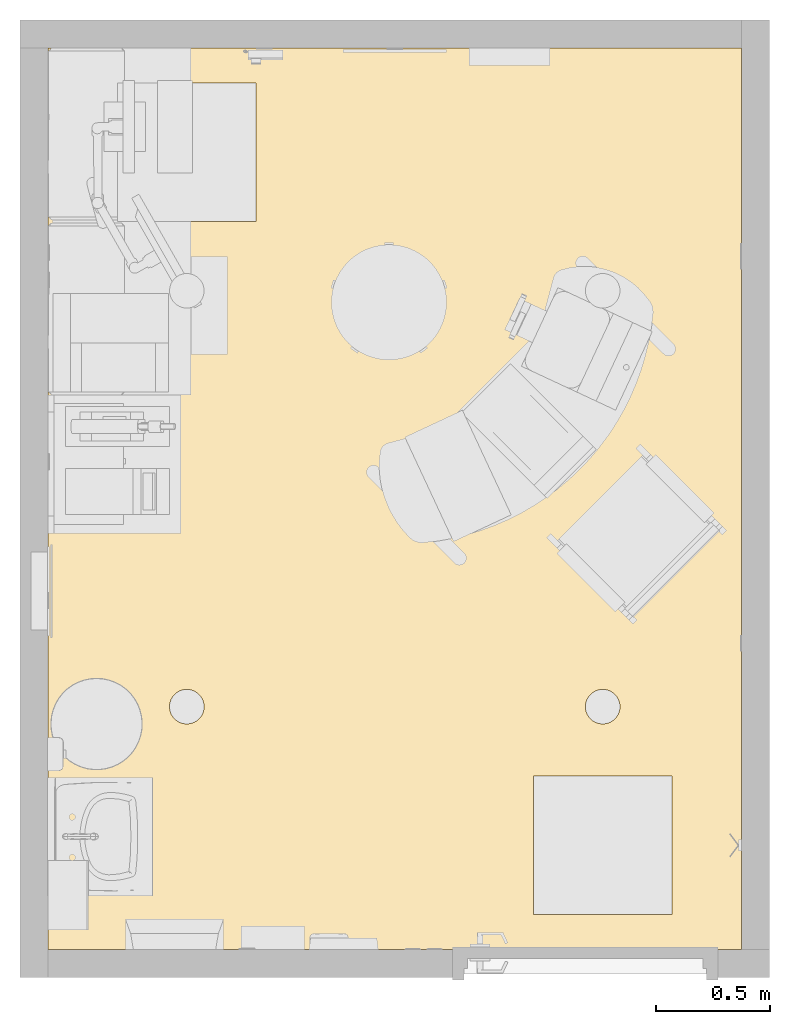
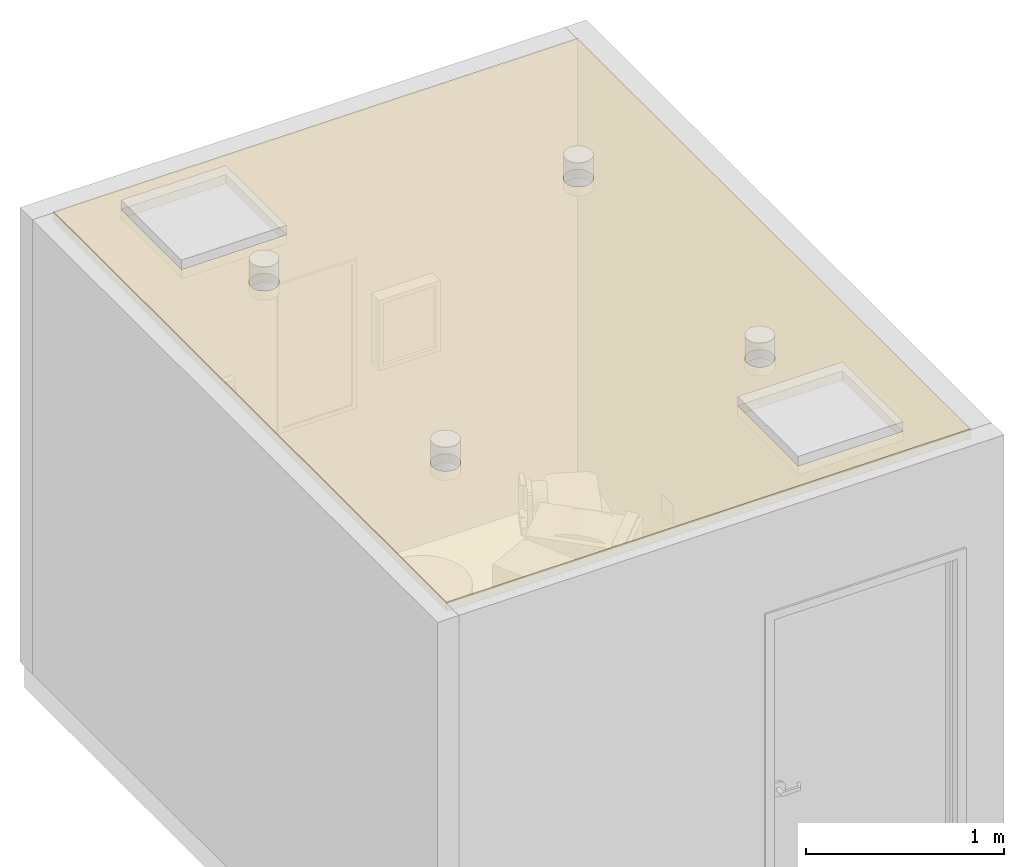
# One storey, part 3 of 12: 1 covering.
"""IFC2X3 building model written with IfcOpenShell, lengths in feet."""

from ifc_helpers import new_model, entity, si_unit, converted_unit, derived_unit, direction, frame, frame_2d, origin, place, context, subcontext, project, spatial, polyline, circle_curve, parameter, trimmed, segment, composite_curve, outline, extrude, material, layer, layer_set, layer_usage, element, save


model = new_model("IFC2X3")

# Units and contexts
model_context = context("Model", 3, precision=0.0001, world=origin(), true_north=direction((6.12303176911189e-17, 1.0)))
body_context = subcontext(model_context, "Body", "Model", "MODEL_VIEW")
ifc_project = project(units=[converted_unit("LENGTHUNIT", "FOOT", entity("IfcRatioMeasure", 0.3048), si_unit("LENGTHUNIT", "METRE"), dimensions=[1, 0, 0, 0, 0, 0, 0]), converted_unit("AREAUNIT", "SQUARE FOOT", entity("IfcRatioMeasure", 0.09290304), si_unit("AREAUNIT", "SQUARE_METRE"), dimensions=[2, 0, 0, 0, 0, 0, 0]), converted_unit("VOLUMEUNIT", "CUBIC FOOT", entity("IfcRatioMeasure", 0.028316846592), si_unit("VOLUMEUNIT", "CUBIC_METRE"), dimensions=[3, 0, 0, 0, 0, 0, 0]), converted_unit("PLANEANGLEUNIT", "DEGREE", entity("IfcRatioMeasure", 0.0174532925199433), si_unit("PLANEANGLEUNIT", "RADIAN"), dimensions=[0, 0, 0, 0, 0, 0, 0]), si_unit("MASSUNIT", "GRAM", prefix="KILO"), derived_unit("MASSDENSITYUNIT", [(si_unit("MASSUNIT", "GRAM", prefix="KILO"), 1), (si_unit("LENGTHUNIT", "METRE"), -3)]), si_unit("TIMEUNIT", "SECOND"), si_unit("FREQUENCYUNIT", "HERTZ"), si_unit("THERMODYNAMICTEMPERATUREUNIT", "DEGREE_CELSIUS"), derived_unit("THERMALTRANSMITTANCEUNIT", [(si_unit("MASSUNIT", "GRAM", prefix="KILO"), 1), (si_unit("THERMODYNAMICTEMPERATUREUNIT", "KELVIN"), -1), (si_unit("TIMEUNIT", "SECOND"), -3)]), derived_unit("VOLUMETRICFLOWRATEUNIT", [(si_unit("LENGTHUNIT", "METRE"), 3), (si_unit("TIMEUNIT", "SECOND"), -1)]), si_unit("ELECTRICCURRENTUNIT", "AMPERE"), si_unit("ELECTRICVOLTAGEUNIT", "VOLT"), si_unit("POWERUNIT", "WATT"), si_unit("FORCEUNIT", "NEWTON"), si_unit("ILLUMINANCEUNIT", "LUX"), si_unit("LUMINOUSFLUXUNIT", "LUMEN"), si_unit("LUMINOUSINTENSITYUNIT", "CANDELA"), derived_unit("USERDEFINED", [(si_unit("MASSUNIT", "GRAM", prefix="KILO"), -1), (si_unit("LENGTHUNIT", "METRE"), -2), (si_unit("TIMEUNIT", "SECOND"), 3), (si_unit("LUMINOUSFLUXUNIT", "LUMEN"), 1)]), derived_unit("LINEARVELOCITYUNIT", [(si_unit("LENGTHUNIT", "METRE"), 1), (si_unit("TIMEUNIT", "SECOND"), -1)]), si_unit("PRESSUREUNIT", "PASCAL"), derived_unit("USERDEFINED", [(si_unit("LENGTHUNIT", "METRE"), -2), (si_unit("MASSUNIT", "GRAM", prefix="KILO"), 1), (si_unit("TIMEUNIT", "SECOND"), -2)])], contexts=[model_context])

# Site, building, storey, space
site_placement = place(None, origin())
site = spatial("IfcSite", under=ifc_project, at=site_placement, Name="Default", CompositionType="ELEMENT")
building_placement = place(site_placement, origin())
building = spatial("IfcBuilding", under=site, at=building_placement, Name="EYE CLINIC:  OPTHALMOLOGY AND OPTOMETRY SERVICES (Ch. 233)", CompositionType="ELEMENT")
storey_placement = place(building_placement, origin())
storey = spatial("IfcBuildingStorey", under=building, at=storey_placement, Name="DATUM", CompositionType="ELEMENT", Elevation=0.0)
space_placement = place(storey_placement, origin())
space = spatial("IfcSpace", under=storey, at=space_placement, Name="(OPPT2)", CompositionType="ELEMENT", InteriorOrExteriorSpace="INTERNAL")

# Covering
ifc_material_1 = material(Name="Default")
ifc_layer_1 = layer(ifc_material_1, 0.135416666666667)
ifc_material_2 = material(Name="Acoustic Ceiling Tile 24 x 24")
ifc_layer_2 = layer(ifc_material_2, 0.0520833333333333)
ifc_layer_set = layer_set([ifc_layer_1, ifc_layer_2], Name="Compound Ceiling:2' x 2' ACT System")
ifc_layer_usage = layer_usage(ifc_layer_set, "AXIS3", "POSITIVE", 0.0)
covering_placement = place(space_placement, origin())
element("IfcCovering", 1, at=covering_placement, inside=space, material=ifc_layer_usage, Name="Compound Ceiling:2' x 2' ACT System", ObjectType="Compound Ceiling:2' x 2' ACT System", PredefinedType="CEILING", context=body_context, shape_type="SweptSolid", body=[
    extrude(outline(polyline([(-6.50000000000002, -5.0), (6.49999999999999, -5.0), (6.50000000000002, 5.0), (-6.49999999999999, 5.0), (-6.50000000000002, -5.0)]), holes=[composite_curve([segment(trimmed(circle_curve(frame_2d((3.0, 3.0), x_axis=(0.0, -1.0)), 0.25), [parameter(180.0)], [parameter(0.0)], True, "PARAMETER"), False, "CONTINUOUS"), segment(trimmed(circle_curve(frame_2d((3.0, 3.0), x_axis=(0.0, -1.0)), 0.25), [parameter(0.0)], [parameter(180.0)], True, "PARAMETER"), False, "CONTINUOUS")], self_intersect=False), composite_curve([segment(trimmed(circle_curve(frame_2d((-3.0, 3.0), x_axis=(0.0, -1.0)), 0.25), [parameter(180.0)], [parameter(0.0)], True, "PARAMETER"), False, "CONTINUOUS"), segment(trimmed(circle_curve(frame_2d((-3.0, 3.0), x_axis=(0.0, -1.0)), 0.25), [parameter(0.0)], [parameter(180.0)], True, "PARAMETER"), False, "CONTINUOUS")], self_intersect=False), composite_curve([segment(trimmed(circle_curve(frame_2d((3.0, -3.0), x_axis=(0.0, -1.0)), 0.25), [parameter(180.0)], [parameter(0.0)], True, "PARAMETER"), False, "CONTINUOUS"), segment(trimmed(circle_curve(frame_2d((3.0, -3.0), x_axis=(0.0, -1.0)), 0.25), [parameter(0.0)], [parameter(180.0)], True, "PARAMETER"), False, "CONTINUOUS")], self_intersect=False), composite_curve([segment(trimmed(circle_curve(frame_2d((-3.0, -3.0), x_axis=(0.0, -1.0)), 0.25), [parameter(180.0)], [parameter(0.0)], True, "PARAMETER"), False, "CONTINUOUS"), segment(trimmed(circle_curve(frame_2d((-3.0, -3.0), x_axis=(0.0, -1.0)), 0.25), [parameter(0.0)], [parameter(180.0)], True, "PARAMETER"), False, "CONTINUOUS")], self_intersect=False), polyline([(4.0, 4.0), (6.0, 4.0), (6.0, 2.0), (4.0, 2.0), (4.0, 4.0)]), polyline([(-6.0, -2.0), (-4.0, -2.0), (-4.0, -4.0), (-6.0, -4.0), (-6.0, -2.0)])]), frame((158.639769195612, 28.3076256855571, 9.0), z_axis=(0.0, 0.0, 1.0), x_axis=(0.0, 1.0, 0.0)), (0.0, 0.0, 1.0), 0.1875),
])

save(model, "model.ifc")
